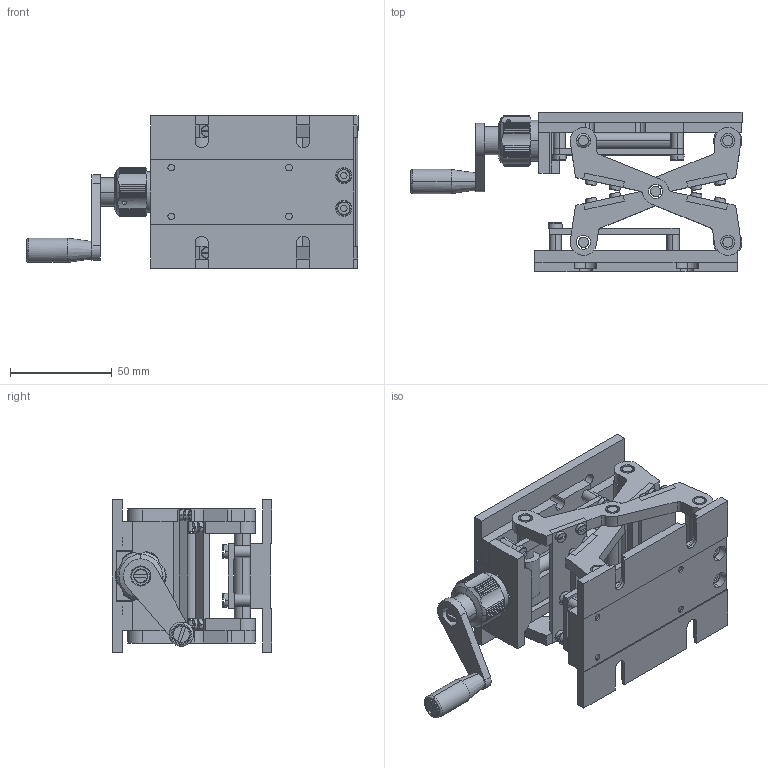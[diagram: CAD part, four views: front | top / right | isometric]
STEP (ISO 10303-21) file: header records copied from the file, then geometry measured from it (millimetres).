
FILE_DESCRIPTION (( 'STEP AP214' ), '1' );
FILE_NAME ('PT-SD1701M.STEP', '2022-09-11T09:09:03', ( '' ), ( '' ), 'SwSTEP 2.0', 'SolidWorks 2017', '' );
FILE_SCHEMA (( 'AUTOMOTIVE_DESIGN' ));
Length unit declared in the file: millimetre
Products named in the file (3): PT-SD1701M; PT-SD1701M盓殤; PT-SD1701M菁釱
Assembly tree (2 placements, depth 2):
  PT-SD1701M
    PT-SD1701M菁釱
    PT-SD1701M盓殤
Bounding box: 163.5 x 78.52 x 75 mm (x, y, z)
Volume: 4468.3 mm3; surface area: 94328.8 mm2
Topology: 1 solids, 100 shells, 833 faces, 2595 edges, 1842 vertices
Faces by surface type: plane 342, cylinder 327, cone 114, bspline 50
Entity records: 38467 total; most frequent: CARTESIAN_POINT 15993, ORIENTED_EDGE 4459, DIRECTION 4441, EDGE_CURVE 2589, VERTEX_POINT 1842, AXIS2_PLACEMENT_3D 1648, LINE 1145, VECTOR 1145
